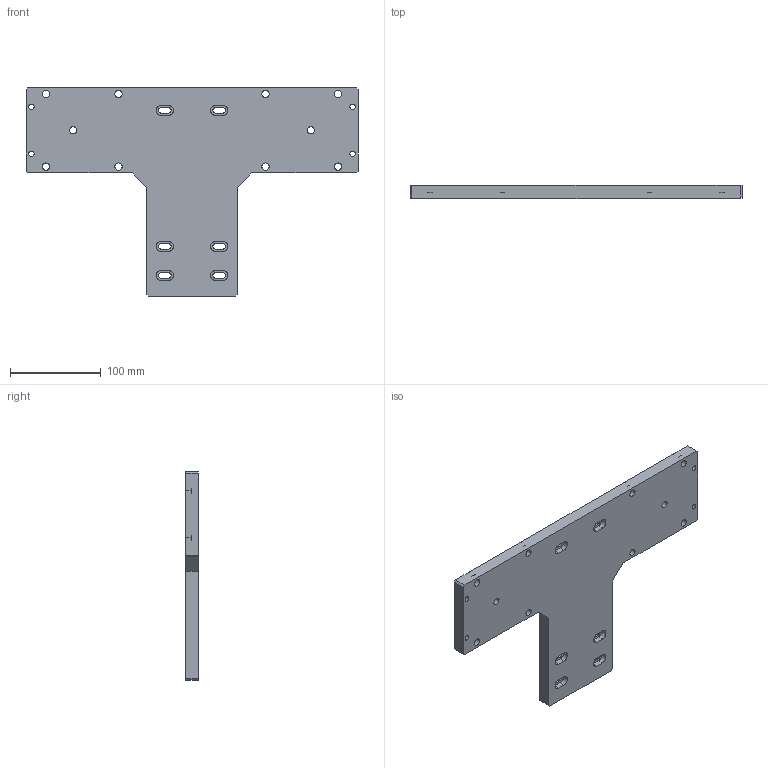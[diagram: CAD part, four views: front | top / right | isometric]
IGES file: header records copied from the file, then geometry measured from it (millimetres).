
Start section:  PTC IGES file: k100-k100m-st.igs
Global section: file name: k100-k100m-st.igs; native system: Pro/ENGINEER by Parametric Technology Corporation; preprocessor: 2008230; author: Owner; organization: Unknown; date: 20121211.160428; units: millimetre
Bounding box: 366 x 14 x 230 mm (x, y, z)
Surface area: 120628.3 mm2 (no closed solid volume)
Topology: 0 solids, 0 shells, 142 faces, 752 edges, 745 vertices
Faces by surface type: revolution 80, bspline 62
